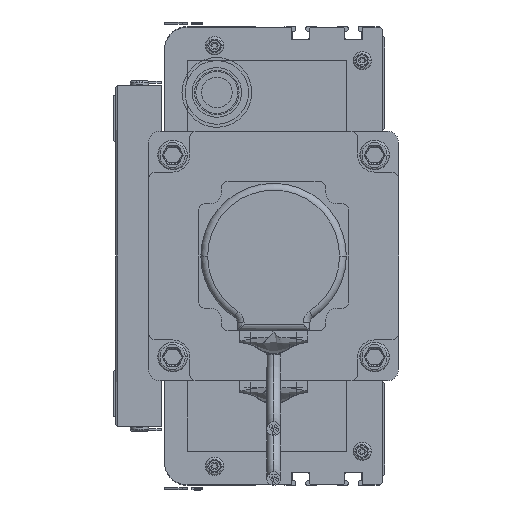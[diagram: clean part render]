
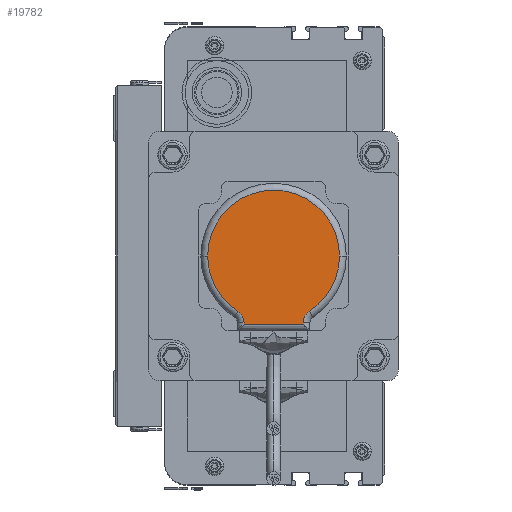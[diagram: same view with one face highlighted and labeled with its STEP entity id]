
A CAD part, left-side view. The second image highlights one B-rep face of the part: STEP entity #19782.
In plain terms, the highlighted planar face has unit normal (-1, 0, 0) as drawn and (0, 0, 1) by its records, which use the part's own axes.
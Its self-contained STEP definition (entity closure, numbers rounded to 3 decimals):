
#19779 = ORIENTED_EDGE ( 'NONE', *, *, #19939, .F. ) ;
#19780 = ORIENTED_EDGE ( 'NONE', *, *, #19890, .T. ) ;
#19782 = ADVANCED_FACE ( 'NONE', ( #50300 ), #50304, .T. ) ;
#19783 = VERTEX_POINT ( 'NONE', #50309 ) ;
#19806 = VERTEX_POINT ( 'NONE', #50546 ) ;
#19808 = VERTEX_POINT ( 'NONE', #50462 ) ;
#19811 = EDGE_CURVE ( 'NONE', #19806, #19808, #50544, .T. ) ;
#19845 = VERTEX_POINT ( 'NONE', #50700 ) ;
#19858 = ORIENTED_EDGE ( 'NONE', *, *, #19975, .T. ) ;
#19886 = ORIENTED_EDGE ( 'NONE', *, *, #19887, .F. ) ;
#19887 = EDGE_CURVE ( 'NONE', #19806, #19958, #50819, .T. ) ;
#19888 = ORIENTED_EDGE ( 'NONE', *, *, #19984, .T. ) ;
#19889 = ORIENTED_EDGE ( 'NONE', *, *, #19811, .T. ) ;
#19890 = EDGE_CURVE ( 'NONE', #19989, #19783, #50816, .T. ) ;
#19897 = EDGE_LOOP ( 'NONE', ( #19886, #19889, #19888, #19780, #19779, #129912, #19858, #19942 ) ) ;
#19933 = EDGE_CURVE ( 'NONE', #19845, #19934, #73120, .T. ) ;
#19934 = VERTEX_POINT ( 'NONE', #73125 ) ;
#19939 = EDGE_CURVE ( 'NONE', #19845, #19783, #73106, .T. ) ;
#19940 = EDGE_CURVE ( 'NONE', #129929, #19958, #73101, .T. ) ;
#19942 = ORIENTED_EDGE ( 'NONE', *, *, #19940, .T. ) ;
#19958 = VERTEX_POINT ( 'NONE', #73137 ) ;
#19975 = EDGE_CURVE ( 'NONE', #19934, #129929, #73177, .T. ) ;
#19984 = EDGE_CURVE ( 'NONE', #19808, #19989, #73238, .T. ) ;
#19989 = VERTEX_POINT ( 'NONE', #73215 ) ;
#50300 = FACE_OUTER_BOUND ( 'NONE', #19897, .T. ) ;
#50304 = PLANE ( 'NONE',  #50344 ) ;
#50309 = CARTESIAN_POINT ( 'NONE',  ( 48.743, 57.355, 25. ) ) ;
#50313 = CARTESIAN_POINT ( 'NONE',  ( 33., 33., 25. ) ) ;
#50329 = DIRECTION ( 'NONE',  ( 0., 0., 1. ) ) ;
#50344 = AXIS2_PLACEMENT_3D ( 'NONE', #50313, #50329, #50445 ) ;
#50445 = DIRECTION ( 'NONE',  ( 1., 0., 0. ) ) ;
#50462 = CARTESIAN_POINT ( 'NONE',  ( 4., 33., 25. ) ) ;
#50534 = DIRECTION ( 'NONE',  ( 1., 0., 0. ) ) ;
#50535 = DIRECTION ( 'NONE',  ( 0., 0., 1. ) ) ;
#50537 = CARTESIAN_POINT ( 'NONE',  ( 33., 33., 25. ) ) ;
#50538 = AXIS2_PLACEMENT_3D ( 'NONE', #50537, #50535, #50534 ) ;
#50544 = CIRCLE ( 'NONE', #50538, 29. ) ;
#50546 = CARTESIAN_POINT ( 'NONE',  ( 17.257, 57.355, 25. ) ) ;
#50700 = CARTESIAN_POINT ( 'NONE',  ( 46., 62.394, 25. ) ) ;
#50805 = DIRECTION ( 'NONE',  ( 1., 0., 0. ) ) ;
#50806 = DIRECTION ( 'NONE',  ( 0., 0., 1. ) ) ;
#50807 = AXIS2_PLACEMENT_3D ( 'NONE', #50843, #50806, #50805 ) ;
#50811 = DIRECTION ( 'NONE',  ( 1., 0., 0. ) ) ;
#50812 = DIRECTION ( 'NONE',  ( 0., 0., 1. ) ) ;
#50813 = CARTESIAN_POINT ( 'NONE',  ( 14., 62.394, 25. ) ) ;
#50816 = CIRCLE ( 'NONE', #50807, 29. ) ;
#50819 = CIRCLE ( 'NONE', #50846, 6. ) ;
#50843 = CARTESIAN_POINT ( 'NONE',  ( 33., 33., 25. ) ) ;
#50846 = AXIS2_PLACEMENT_3D ( 'NONE', #50813, #50812, #50811 ) ;
#73101 = LINE ( 'NONE', #73116, #73164 ) ;
#73102 = DIRECTION ( 'NONE',  ( 1., 0., 0. ) ) ;
#73103 = DIRECTION ( 'NONE',  ( 0., 0., 1. ) ) ;
#73104 = CARTESIAN_POINT ( 'NONE',  ( 52., 62.394, 25. ) ) ;
#73105 = AXIS2_PLACEMENT_3D ( 'NONE', #73104, #73103, #73102 ) ;
#73106 = CIRCLE ( 'NONE', #73105, 6. ) ;
#73115 = DIRECTION ( 'NONE',  ( 0., -1., 0. ) ) ;
#73116 = CARTESIAN_POINT ( 'NONE',  ( 20., 33., 25. ) ) ;
#73117 = DIRECTION ( 'NONE',  ( 0., 1., 0. ) ) ;
#73118 = VECTOR ( 'NONE', #73117, 1000. ) ;
#73119 = CARTESIAN_POINT ( 'NONE',  ( 46., 33., 25. ) ) ;
#73120 = LINE ( 'NONE', #73119, #73118 ) ;
#73125 = CARTESIAN_POINT ( 'NONE',  ( 46., 63., 25. ) ) ;
#73137 = CARTESIAN_POINT ( 'NONE',  ( 20., 62.394, 25. ) ) ;
#73164 = VECTOR ( 'NONE', #73115, 1000. ) ;
#73176 = CARTESIAN_POINT ( 'NONE',  ( 17.5, 63., 25. ) ) ;
#73177 = LINE ( 'NONE', #73176, #73240 ) ;
#73215 = CARTESIAN_POINT ( 'NONE',  ( 62., 33., 25. ) ) ;
#73220 = DIRECTION ( 'NONE',  ( 1., 0., 0. ) ) ;
#73222 = DIRECTION ( 'NONE',  ( 0., 0., 1. ) ) ;
#73223 = CARTESIAN_POINT ( 'NONE',  ( 33., 33., 25. ) ) ;
#73224 = AXIS2_PLACEMENT_3D ( 'NONE', #73223, #73222, #73220 ) ;
#73238 = CIRCLE ( 'NONE', #73224, 29. ) ;
#73239 = DIRECTION ( 'NONE',  ( -1., 0., 0. ) ) ;
#73240 = VECTOR ( 'NONE', #73239, 1000. ) ;
#125495 = CARTESIAN_POINT ( 'NONE',  ( 20., 63., 25. ) ) ;
#129912 = ORIENTED_EDGE ( 'NONE', *, *, #19933, .T. ) ;
#129929 = VERTEX_POINT ( 'NONE', #125495 ) ;
